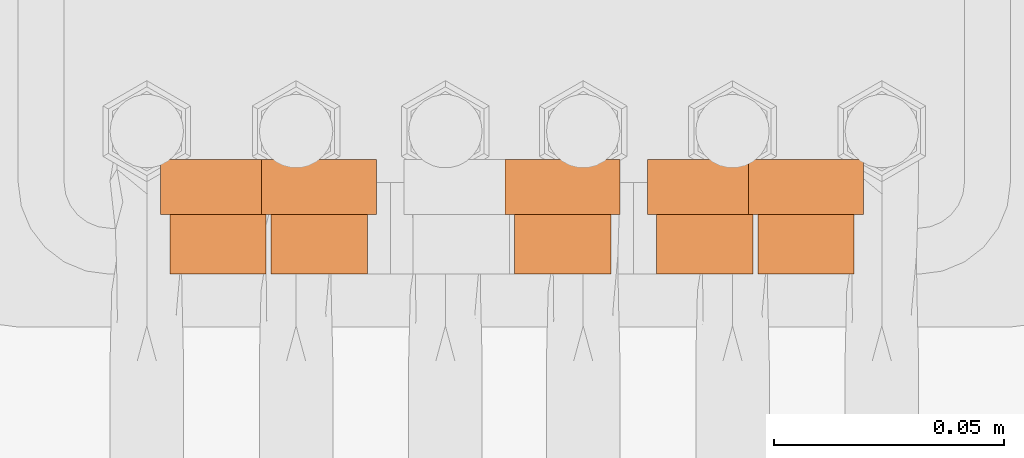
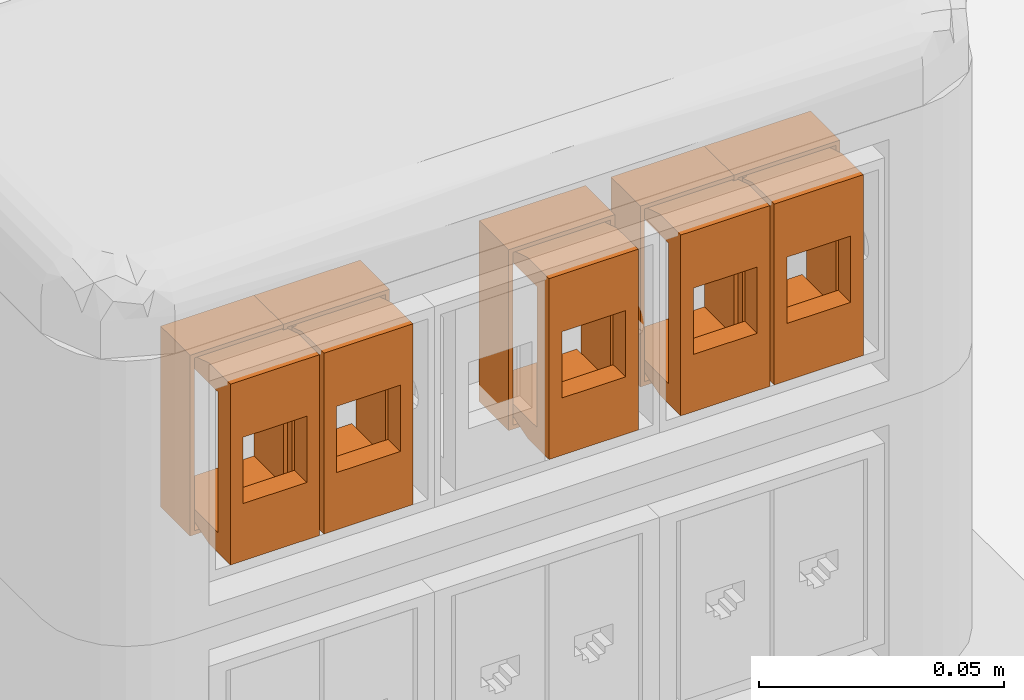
# One storey, part 73 of 87: 10 proxies, 5 openings.
"""IFC2X3 building model written with IfcOpenShell, lengths in millimetres."""

from ifc_helpers import new_model, entity, si_unit, converted_unit, derived_unit, direction, frame, frame_2d, origin, place, context, subcontext, project, spatial, polyline, rectangle, outline, extrude, source, transform, mapped, type_object, type_shapes, element, save


model = new_model("IFC2X3")

# Units and contexts
model_context = context("Model", 3, precision=0.01, world=origin(), true_north=direction((6.12303176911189e-17, 1.0)))
body_context = subcontext(model_context, "Body", "Model", "MODEL_VIEW")
ifc_project = project(units=[si_unit("LENGTHUNIT", "METRE", prefix="MILLI"), si_unit("AREAUNIT", "SQUARE_METRE"), si_unit("VOLUMEUNIT", "CUBIC_METRE"), converted_unit("PLANEANGLEUNIT", "DEGREE", entity("IfcRatioMeasure", 0.0174532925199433), si_unit("PLANEANGLEUNIT", "RADIAN"), dimensions=[0, 0, 0, 0, 0, 0, 0]), si_unit("MASSUNIT", "GRAM", prefix="KILO"), derived_unit("MASSDENSITYUNIT", [(si_unit("MASSUNIT", "GRAM", prefix="KILO"), 1), (si_unit("LENGTHUNIT", "METRE"), -3)]), si_unit("TIMEUNIT", "SECOND"), si_unit("FREQUENCYUNIT", "HERTZ"), si_unit("THERMODYNAMICTEMPERATUREUNIT", "DEGREE_CELSIUS"), derived_unit("THERMALTRANSMITTANCEUNIT", [(si_unit("MASSUNIT", "GRAM", prefix="KILO"), 1), (si_unit("THERMODYNAMICTEMPERATUREUNIT", "KELVIN"), -1), (si_unit("TIMEUNIT", "SECOND"), -3)]), derived_unit("VOLUMETRICFLOWRATEUNIT", [(si_unit("LENGTHUNIT", "METRE"), 3), (si_unit("TIMEUNIT", "SECOND"), -1)]), si_unit("ELECTRICCURRENTUNIT", "AMPERE"), si_unit("ELECTRICVOLTAGEUNIT", "VOLT"), si_unit("POWERUNIT", "WATT"), si_unit("FORCEUNIT", "NEWTON", prefix="KILO"), si_unit("ILLUMINANCEUNIT", "LUX"), si_unit("LUMINOUSFLUXUNIT", "LUMEN"), si_unit("LUMINOUSINTENSITYUNIT", "CANDELA"), derived_unit("USERDEFINED", [(si_unit("MASSUNIT", "GRAM", prefix="KILO"), -1), (si_unit("LENGTHUNIT", "METRE"), -2), (si_unit("TIMEUNIT", "SECOND"), 3), (si_unit("LUMINOUSFLUXUNIT", "LUMEN"), 1)]), derived_unit("LINEARVELOCITYUNIT", [(si_unit("LENGTHUNIT", "METRE"), 1), (si_unit("TIMEUNIT", "SECOND"), -1)]), si_unit("PRESSUREUNIT", "PASCAL"), derived_unit("USERDEFINED", [(si_unit("LENGTHUNIT", "METRE"), -2), (si_unit("MASSUNIT", "GRAM", prefix="KILO"), 1), (si_unit("TIMEUNIT", "SECOND"), -2)])], contexts=[model_context])

# Site, building, storey
site_placement = place(None, origin())
site = spatial("IfcSite", under=ifc_project, at=site_placement, Name="Default", CompositionType="ELEMENT")
building_placement = place(site_placement, origin())
building = spatial("IfcBuilding", under=site, at=building_placement, Name="Наименование здания", CompositionType="ELEMENT")
storey_placement = place(building_placement, origin())
storey = spatial("IfcBuildingStorey", under=building, at=storey_placement, Name="Этаж 01", CompositionType="ELEMENT", Elevation=0.0)

# Proxies
building_element_proxy_type_1 = type_object("IfcBuildingElementProxyType", Name="1 модуль 2", PredefinedType="NOTDEFINED")
shared_shape_1 = source(origin(), body_context, "Body", "SweptSolid", [
    extrude(outline(polyline([(-22.5000000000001, -12.4999999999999), (22.5000000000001, -12.4999999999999), (22.5000000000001, 12.4999999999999), (-22.5000000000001, 12.4999999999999), (-22.5000000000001, -12.4999999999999)]), holes=[polyline([(-21.5000000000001, -11.4999999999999), (-21.5000000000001, 11.4999999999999), (21.5000000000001, 11.4999999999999), (21.5000000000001, -11.4999999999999), (-21.5000000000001, -11.4999999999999)])]), frame((0.0, 0.0, 0.0), z_axis=(0.0, 1.0, 0.0), x_axis=(0.0, 0.0, -1.0)), (0.0, 0.0, 1.0), 11.9999999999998),
])
type_shapes(building_element_proxy_type_1, [shared_shape_1])
for number, where in (
    (1, (-16775.2397600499, 2325.6904127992, 127.875000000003)),
    (2, (-16744.2397600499, 2325.6904127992, 127.875000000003)),
    (3, (-16722.2397600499, 2325.6904127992, 127.875000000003)),
    (4, (-16850.2397600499, 2325.6904127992, 127.875000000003)),
    (5, (-16828.2397600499, 2325.6904127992, 127.875000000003)),
):
    element("IfcBuildingElementProxy", number, at=place(storey_placement, frame(where)), inside=storey, type_object=building_element_proxy_type_1, Name="Суппорт для монтажа ЭУИ серии Viva на DIN-рейку или монтажную плату1:1 модуль 2", ObjectType="1 модуль 2", context=body_context, shape_type="MappedRepresentation", body=[
        mapped(shared_shape_1, transform((0.0, 0.0, 0.0), scale=1.0)),
    ])

# Proxy, opening
building_element_proxy_type_2 = type_object("IfcBuildingElementProxyType", Name="Категория 5e", PredefinedType="NOTDEFINED")
shared_shape_2 = source(origin(), body_context, "Body", "SweptSolid", [
    extrude(outline(polyline([(-8.25000000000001, -7.5), (8.25000000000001, -7.5), (8.25000000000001, 7.5), (-8.25000000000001, 7.5), (-8.25000000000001, -7.5)]), holes=[polyline([(2.65625000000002, 2.620002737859), (4.28326939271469, 2.620002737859), (4.28326939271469, 1.25323285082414), (5.38721564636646, 1.25323285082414), (5.38721564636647, -1.25323285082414), (4.28326939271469, -1.25323285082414), (4.2832693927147, -2.620002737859), (2.65625000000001, -2.620002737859), (2.65625000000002, -4.52170142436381), (-2.36695910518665, -4.5217014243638), (-2.36695910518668, 4.5217014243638), (2.65625000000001, 4.52170142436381), (2.65625000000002, 2.620002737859)])]), frame((0.0, -25.0, 0.0), z_axis=(0.0, 1.0, 0.0), x_axis=(0.0, 0.0, -1.0)), (0.0, 0.0, 1.0), 4.99999999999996),
    extrude(outline(polyline([(-13.1181093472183, -22.5000000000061), (-4.40945326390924, -22.5000000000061), (1.88189065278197, -20.5000000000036), (11.881890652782, -20.5000000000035), (11.881890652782, -17.5000000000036), (-8.11810934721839, -17.5000000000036), (-8.11810934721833, 17.5000000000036), (11.881890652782, 17.5000000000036), (11.881890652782, 20.5000000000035), (1.88189065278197, 20.5000000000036), (-4.40945326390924, 22.5000000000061), (-13.1181093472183, 22.5000000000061), (-13.1181093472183, -22.5000000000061)])), frame((-10.5000000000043, -11.881890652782, 0.0), z_axis=(1.0, 0.0, 0.0), x_axis=(0.0, 1.0, 0.0)), (0.0, 0.0, 1.0), 21.0000000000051),
])
type_shapes(building_element_proxy_type_2, [shared_shape_2])
proxy_1_placement = place(storey_placement, frame((-16775.2397600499, 2337.6904127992, 127.875000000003)))
proxy_1 = element("IfcBuildingElementProxy", 6, at=proxy_1_placement, inside=storey, type_object=building_element_proxy_type_2, Name="Компьютерные розетки:Категория 5e", ObjectType="Категория 5e", context=body_context, shape_type="MappedRepresentation", body=[
    mapped(shared_shape_2, transform((0.0, 0.0, 0.0), scale=1.0)),
])
opening_1_placement = place(storey_placement, frame((-16775.2397600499, 2337.6904127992, 127.875000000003)))
element("IfcOpeningElement", 7, at=opening_1_placement, cuts=proxy_1, Name="Компьютерные розетки:Категория 5e:1", ObjectType="Opening", context=body_context, shape_type="SweptSolid", body=[
    extrude(rectangle(XDim=16.5, YDim=15.0, at=frame_2d((0.0, 8.88178419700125e-16), x_axis=(1.0, 0.0))), frame((0.0, -25.0, 0.0), z_axis=(0.0, 1.0, 0.0), x_axis=(0.0, 0.0, -1.0)), (0.0, 0.0, 1.0), 4.99999999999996),
])

building_element_proxy_type_3 = type_object("IfcBuildingElementProxyType", Name="Категория 5e", PredefinedType="NOTDEFINED")
shared_shape_3 = source(origin(), body_context, "Body", "SweptSolid", [
    extrude(outline(polyline([(-8.25000000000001, -7.5), (8.25000000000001, -7.5), (8.25000000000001, 7.5), (-8.25000000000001, 7.5), (-8.25000000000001, -7.5)]), holes=[polyline([(2.65625000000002, 2.620002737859), (4.28326939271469, 2.620002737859), (4.28326939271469, 1.25323285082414), (5.38721564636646, 1.25323285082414), (5.38721564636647, -1.25323285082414), (4.28326939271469, -1.25323285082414), (4.2832693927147, -2.620002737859), (2.65625000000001, -2.620002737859), (2.65625000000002, -4.52170142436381), (-2.36695910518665, -4.5217014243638), (-2.36695910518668, 4.5217014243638), (2.65625000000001, 4.52170142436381), (2.65625000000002, 2.620002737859)])]), frame((0.0, -25.0, 0.0), z_axis=(0.0, 1.0, 0.0), x_axis=(0.0, 0.0, -1.0)), (0.0, 0.0, 1.0), 4.99999999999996),
    extrude(outline(polyline([(-13.1181093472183, -22.5000000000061), (-4.40945326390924, -22.5000000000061), (1.88189065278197, -20.5000000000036), (11.881890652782, -20.5000000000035), (11.881890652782, -17.5000000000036), (-8.11810934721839, -17.5000000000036), (-8.11810934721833, 17.5000000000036), (11.881890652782, 17.5000000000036), (11.881890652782, 20.5000000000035), (1.88189065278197, 20.5000000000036), (-4.40945326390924, 22.5000000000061), (-13.1181093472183, 22.5000000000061), (-13.1181093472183, -22.5000000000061)])), frame((-10.5000000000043, -11.881890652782, 0.0), z_axis=(1.0, 0.0, 0.0), x_axis=(0.0, 1.0, 0.0)), (0.0, 0.0, 1.0), 21.0000000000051),
])
type_shapes(building_element_proxy_type_3, [shared_shape_3])
proxy_2_placement = place(storey_placement, frame((-16744.2397600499, 2337.6904127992, 127.875000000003)))
proxy_2 = element("IfcBuildingElementProxy", 8, at=proxy_2_placement, inside=storey, type_object=building_element_proxy_type_3, Name="Компьютерные розетки:Категория 5e", ObjectType="Категория 5e", context=body_context, shape_type="MappedRepresentation", body=[
    mapped(shared_shape_3, transform((0.0, 0.0, 0.0), scale=1.0)),
])
opening_2_placement = place(storey_placement, frame((-16744.2397600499, 2337.6904127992, 127.875000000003)))
element("IfcOpeningElement", 9, at=opening_2_placement, cuts=proxy_2, Name="Компьютерные розетки:Категория 5e:1", ObjectType="Opening", context=body_context, shape_type="SweptSolid", body=[
    extrude(rectangle(XDim=16.5, YDim=15.0, at=frame_2d((0.0, 8.88178419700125e-16), x_axis=(1.0, 0.0))), frame((0.0, -25.0, 0.0), z_axis=(0.0, 1.0, 0.0), x_axis=(0.0, 0.0, -1.0)), (0.0, 0.0, 1.0), 4.99999999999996),
])

building_element_proxy_type_4 = type_object("IfcBuildingElementProxyType", Name="Категория 5e", PredefinedType="NOTDEFINED")
shared_shape_4 = source(origin(), body_context, "Body", "SweptSolid", [
    extrude(outline(polyline([(-8.25000000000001, -7.5), (8.25000000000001, -7.5), (8.25000000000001, 7.5), (-8.25000000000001, 7.5), (-8.25000000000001, -7.5)]), holes=[polyline([(2.65625000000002, 2.620002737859), (4.28326939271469, 2.620002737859), (4.28326939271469, 1.25323285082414), (5.38721564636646, 1.25323285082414), (5.38721564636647, -1.25323285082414), (4.28326939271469, -1.25323285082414), (4.2832693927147, -2.620002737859), (2.65625000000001, -2.620002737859), (2.65625000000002, -4.52170142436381), (-2.36695910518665, -4.5217014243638), (-2.36695910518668, 4.5217014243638), (2.65625000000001, 4.52170142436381), (2.65625000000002, 2.620002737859)])]), frame((0.0, -25.0, 0.0), z_axis=(0.0, 1.0, 0.0), x_axis=(0.0, 0.0, -1.0)), (0.0, 0.0, 1.0), 4.99999999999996),
    extrude(outline(polyline([(-13.1181093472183, -22.5000000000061), (-4.40945326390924, -22.5000000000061), (1.88189065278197, -20.5000000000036), (11.881890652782, -20.5000000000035), (11.881890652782, -17.5000000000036), (-8.11810934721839, -17.5000000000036), (-8.11810934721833, 17.5000000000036), (11.881890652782, 17.5000000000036), (11.881890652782, 20.5000000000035), (1.88189065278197, 20.5000000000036), (-4.40945326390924, 22.5000000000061), (-13.1181093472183, 22.5000000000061), (-13.1181093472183, -22.5000000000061)])), frame((-10.5000000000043, -11.881890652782, 0.0), z_axis=(1.0, 0.0, 0.0), x_axis=(0.0, 1.0, 0.0)), (0.0, 0.0, 1.0), 21.0000000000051),
])
type_shapes(building_element_proxy_type_4, [shared_shape_4])
proxy_3_placement = place(storey_placement, frame((-16722.2397600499, 2337.6904127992, 127.875000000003)))
proxy_3 = element("IfcBuildingElementProxy", 10, at=proxy_3_placement, inside=storey, type_object=building_element_proxy_type_4, Name="Компьютерные розетки:Категория 5e", ObjectType="Категория 5e", context=body_context, shape_type="MappedRepresentation", body=[
    mapped(shared_shape_4, transform((0.0, 0.0, 0.0), scale=1.0)),
])
opening_3_placement = place(storey_placement, frame((-16722.2397600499, 2337.6904127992, 127.875000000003)))
element("IfcOpeningElement", 11, at=opening_3_placement, cuts=proxy_3, Name="Компьютерные розетки:Категория 5e:1", ObjectType="Opening", context=body_context, shape_type="SweptSolid", body=[
    extrude(rectangle(XDim=16.5, YDim=15.0, at=frame_2d((0.0, 8.88178419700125e-16), x_axis=(1.0, 0.0))), frame((0.0, -25.0, 0.0), z_axis=(0.0, 1.0, 0.0), x_axis=(0.0, 0.0, -1.0)), (0.0, 0.0, 1.0), 4.99999999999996),
])

building_element_proxy_type_5 = type_object("IfcBuildingElementProxyType", Name="Категория 5e", PredefinedType="NOTDEFINED")
shared_shape_5 = source(origin(), body_context, "Body", "SweptSolid", [
    extrude(outline(polyline([(-8.25000000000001, -7.5), (8.25000000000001, -7.5), (8.25000000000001, 7.5), (-8.25000000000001, 7.5), (-8.25000000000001, -7.5)]), holes=[polyline([(2.65625000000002, 2.620002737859), (4.28326939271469, 2.620002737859), (4.28326939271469, 1.25323285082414), (5.38721564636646, 1.25323285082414), (5.38721564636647, -1.25323285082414), (4.28326939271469, -1.25323285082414), (4.2832693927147, -2.620002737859), (2.65625000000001, -2.620002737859), (2.65625000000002, -4.52170142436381), (-2.36695910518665, -4.5217014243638), (-2.36695910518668, 4.5217014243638), (2.65625000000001, 4.52170142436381), (2.65625000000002, 2.620002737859)])]), frame((0.0, -25.0, 0.0), z_axis=(0.0, 1.0, 0.0), x_axis=(0.0, 0.0, -1.0)), (0.0, 0.0, 1.0), 4.99999999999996),
    extrude(outline(polyline([(-13.1181093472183, -22.5000000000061), (-4.40945326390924, -22.5000000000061), (1.88189065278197, -20.5000000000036), (11.881890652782, -20.5000000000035), (11.881890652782, -17.5000000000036), (-8.11810934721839, -17.5000000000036), (-8.11810934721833, 17.5000000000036), (11.881890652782, 17.5000000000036), (11.881890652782, 20.5000000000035), (1.88189065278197, 20.5000000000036), (-4.40945326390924, 22.5000000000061), (-13.1181093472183, 22.5000000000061), (-13.1181093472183, -22.5000000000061)])), frame((-10.5000000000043, -11.881890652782, 0.0), z_axis=(1.0, 0.0, 0.0), x_axis=(0.0, 1.0, 0.0)), (0.0, 0.0, 1.0), 21.0000000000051),
])
type_shapes(building_element_proxy_type_5, [shared_shape_5])
proxy_4_placement = place(storey_placement, frame((-16850.2397600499, 2337.6904127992, 127.875000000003)))
proxy_4 = element("IfcBuildingElementProxy", 12, at=proxy_4_placement, inside=storey, type_object=building_element_proxy_type_5, Name="Компьютерные розетки:Категория 5e", ObjectType="Категория 5e", context=body_context, shape_type="MappedRepresentation", body=[
    mapped(shared_shape_5, transform((0.0, 0.0, 0.0), scale=1.0)),
])
opening_4_placement = place(storey_placement, frame((-16850.2397600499, 2337.6904127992, 127.875000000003)))
element("IfcOpeningElement", 13, at=opening_4_placement, cuts=proxy_4, Name="Компьютерные розетки:Категория 5e:1", ObjectType="Opening", context=body_context, shape_type="SweptSolid", body=[
    extrude(rectangle(XDim=16.5, YDim=15.0, at=frame_2d((0.0, 8.88178419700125e-16), x_axis=(1.0, 0.0))), frame((0.0, -25.0, 0.0), z_axis=(0.0, 1.0, 0.0), x_axis=(0.0, 0.0, -1.0)), (0.0, 0.0, 1.0), 4.99999999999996),
])

building_element_proxy_type_6 = type_object("IfcBuildingElementProxyType", Name="Категория 5e", PredefinedType="NOTDEFINED")
shared_shape_6 = source(origin(), body_context, "Body", "SweptSolid", [
    extrude(outline(polyline([(-8.25000000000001, -7.5), (8.25000000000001, -7.5), (8.25000000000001, 7.5), (-8.25000000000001, 7.5), (-8.25000000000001, -7.5)]), holes=[polyline([(2.65625000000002, 2.620002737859), (4.28326939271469, 2.620002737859), (4.28326939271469, 1.25323285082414), (5.38721564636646, 1.25323285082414), (5.38721564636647, -1.25323285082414), (4.28326939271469, -1.25323285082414), (4.2832693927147, -2.620002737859), (2.65625000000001, -2.620002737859), (2.65625000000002, -4.52170142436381), (-2.36695910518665, -4.5217014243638), (-2.36695910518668, 4.5217014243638), (2.65625000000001, 4.52170142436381), (2.65625000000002, 2.620002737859)])]), frame((0.0, -25.0, 0.0), z_axis=(0.0, 1.0, 0.0), x_axis=(0.0, 0.0, -1.0)), (0.0, 0.0, 1.0), 4.99999999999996),
    extrude(outline(polyline([(-13.1181093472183, -22.5000000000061), (-4.40945326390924, -22.5000000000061), (1.88189065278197, -20.5000000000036), (11.881890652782, -20.5000000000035), (11.881890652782, -17.5000000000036), (-8.11810934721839, -17.5000000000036), (-8.11810934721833, 17.5000000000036), (11.881890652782, 17.5000000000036), (11.881890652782, 20.5000000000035), (1.88189065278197, 20.5000000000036), (-4.40945326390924, 22.5000000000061), (-13.1181093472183, 22.5000000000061), (-13.1181093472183, -22.5000000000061)])), frame((-10.5000000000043, -11.881890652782, 0.0), z_axis=(1.0, 0.0, 0.0), x_axis=(0.0, 1.0, 0.0)), (0.0, 0.0, 1.0), 21.0000000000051),
])
type_shapes(building_element_proxy_type_6, [shared_shape_6])
proxy_5_placement = place(storey_placement, frame((-16828.2397600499, 2337.6904127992, 127.875000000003)))
proxy_5 = element("IfcBuildingElementProxy", 14, at=proxy_5_placement, inside=storey, type_object=building_element_proxy_type_6, Name="Компьютерные розетки:Категория 5e", ObjectType="Категория 5e", context=body_context, shape_type="MappedRepresentation", body=[
    mapped(shared_shape_6, transform((0.0, 0.0, 0.0), scale=1.0)),
])
opening_5_placement = place(storey_placement, frame((-16828.2397600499, 2337.6904127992, 127.875000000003)))
element("IfcOpeningElement", 15, at=opening_5_placement, cuts=proxy_5, Name="Компьютерные розетки:Категория 5e:1", ObjectType="Opening", context=body_context, shape_type="SweptSolid", body=[
    extrude(rectangle(XDim=16.5, YDim=15.0, at=frame_2d((0.0, 8.88178419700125e-16), x_axis=(1.0, 0.0))), frame((0.0, -25.0, 0.0), z_axis=(0.0, 1.0, 0.0), x_axis=(0.0, 0.0, -1.0)), (0.0, 0.0, 1.0), 4.99999999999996),
])

save(model, "model.ifc")
